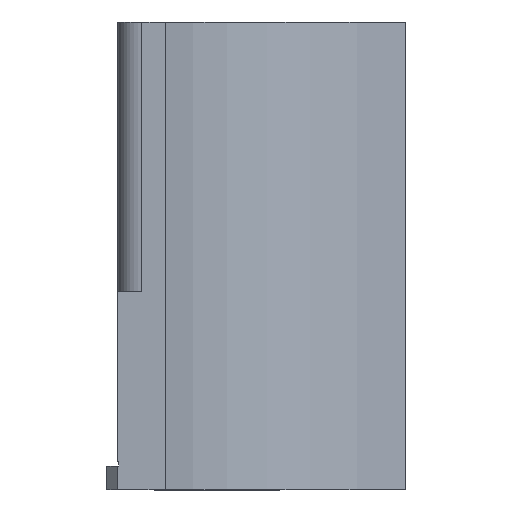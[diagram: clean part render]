
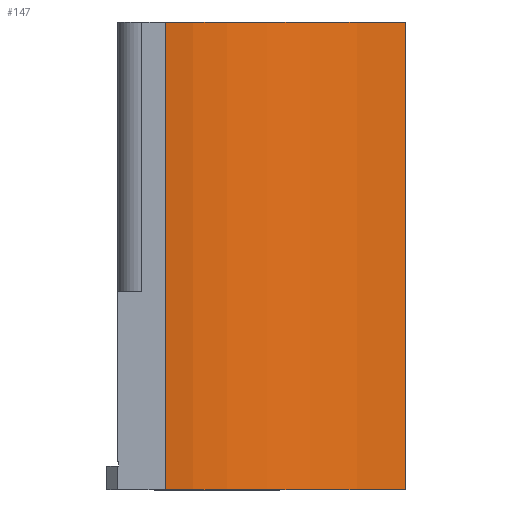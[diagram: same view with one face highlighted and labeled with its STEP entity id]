
A CAD part, front view. The second image highlights one B-rep face of the part: STEP entity #147.
In plain terms, the highlighted cylindrical face has radius 116 mm (diameter 232 mm), a partial arc.
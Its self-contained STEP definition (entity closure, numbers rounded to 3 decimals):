
#147=ADVANCED_FACE('',(#368),#370,.F.);
#368=FACE_BOUND('',#369,.T.);
#369=EDGE_LOOP('',(#548,#549,#550,#551));
#370=CYLINDRICAL_SURFACE('',#371,116.);
#371=AXIS2_PLACEMENT_3D('',#372,#373,#374);
#372=CARTESIAN_POINT('',(120.5,-130.,0.));
#373=DIRECTION('',(0.,0.,-1.));
#374=DIRECTION('',(-0.866,0.499,0.));
#548=ORIENTED_EDGE('',*,*,#671,.T.);
#549=ORIENTED_EDGE('',*,*,#672,.T.);
#550=ORIENTED_EDGE('',*,*,#673,.F.);
#551=ORIENTED_EDGE('',*,*,#641,.F.);
#641=EDGE_CURVE('',#725,#727,#728,.T.);
#671=EDGE_CURVE('',#725,#776,#778,.T.);
#672=EDGE_CURVE('',#776,#779,#780,.T.);
#673=EDGE_CURVE('',#727,#779,#781,.T.);
#725=VERTEX_POINT('',#871);
#727=VERTEX_POINT('',#875);
#728=LINE('',#876,#877);
#776=VERTEX_POINT('',#987);
#778=CIRCLE('',#991,116.);
#779=VERTEX_POINT('',#995);
#780=LINE('',#996,#997);
#781=CIRCLE('',#999,116.);
#871=CARTESIAN_POINT('',(20.,-72.071,0.));
#875=CARTESIAN_POINT('',(20.,-72.071,196.));
#876=CARTESIAN_POINT('',(20.,-72.071,0.));
#877=VECTOR('',#878,1.);
#878=DIRECTION('',(0.,0.,1.));
#987=CARTESIAN_POINT('',(120.5,-14.,0.));
#991=AXIS2_PLACEMENT_3D('',#992,#993,#994);
#992=CARTESIAN_POINT('',(120.5,-130.,0.));
#993=DIRECTION('',(0.,0.,-1.));
#994=DIRECTION('',(-0.866,0.499,0.));
#995=CARTESIAN_POINT('',(120.5,-14.,196.));
#996=CARTESIAN_POINT('',(120.5,-14.,0.));
#997=VECTOR('',#998,1.);
#998=DIRECTION('',(0.,0.,1.));
#999=AXIS2_PLACEMENT_3D('',#1000,#1001,#1002);
#1000=CARTESIAN_POINT('',(120.5,-130.,196.));
#1001=DIRECTION('',(0.,0.,-1.));
#1002=DIRECTION('',(-0.866,0.499,0.));
